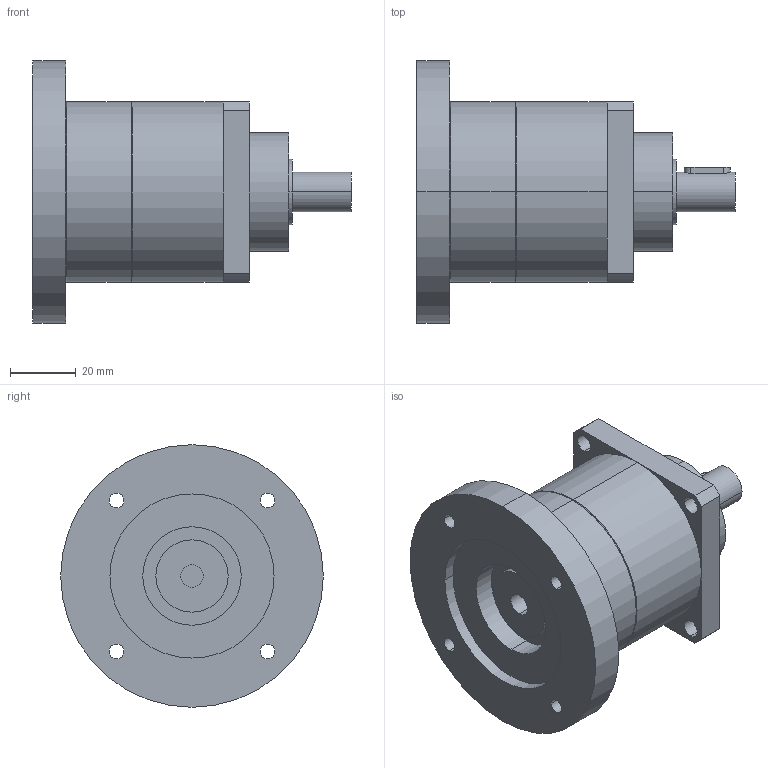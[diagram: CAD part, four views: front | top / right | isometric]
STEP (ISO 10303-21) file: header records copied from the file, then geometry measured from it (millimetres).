
FILE_DESCRIPTION(('CoCreate Modeling STEP Export'),'2;1');
FILE_NAME('GPT55_ig-3-4-5-7-10_12_B5A_7_P13.stp','2014-08-25T14:33:31',(''),(''),'CoCreate Modeling STEP processor for AP214 (Solid Model)','CoCreate Modeling 16.00C 25-Feb-2009 (C) Parametric Technology GmbH','');
FILE_SCHEMA(('AUTOMOTIVE_DESIGN { 1 0 10303 214 1 1 1 1 }'));
Length unit declared in the file: millimetre
Products named in the file (2): GPT55_ig-3-4-5-7-10_12_B5A_7_P13
Assembly tree (1 placements, depth 2):
  GPT55_ig-3-4-5-7-10_12_B5A_7_P13
    GPT55_ig-3-4-5-7-10_12_B5A_7_P13
Bounding box: 97 x 80 x 80 mm (x, y, z)
Volume: 190288.6 mm3; surface area: 28941 mm2
Topology: 1 solids, 1 shells, 71 faces, 183 edges, 124 vertices
Faces by surface type: cylinder 44, plane 23, cone 4
Entity records: 2283 total; most frequent: CARTESIAN_POINT 668, ORIENTED_EDGE 366, DIRECTION 278, EDGE_CURVE 183, VERTEX_POINT 124, AXIS2_PLACEMENT_3D 104, EDGE_LOOP 97, FACE_OUTER_BOUND 71
